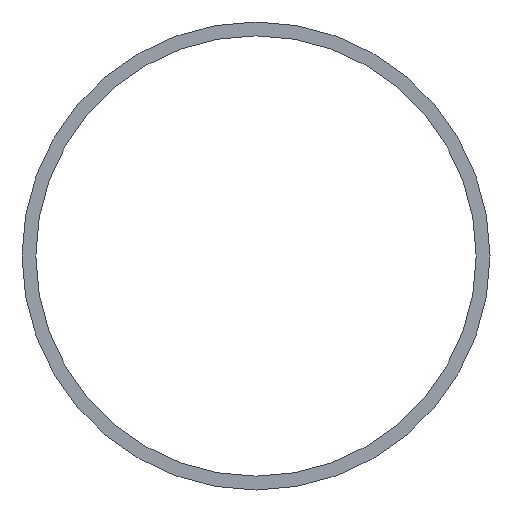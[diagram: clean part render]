
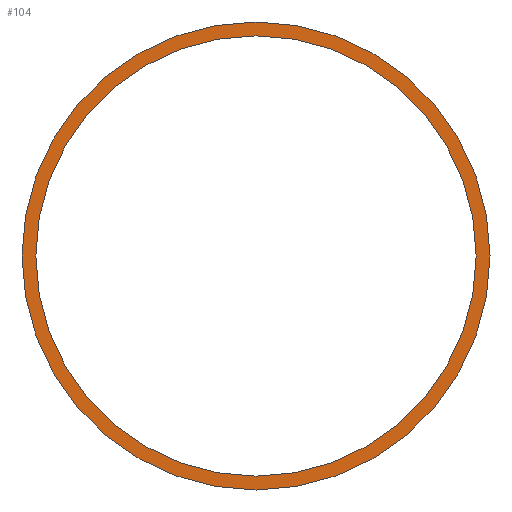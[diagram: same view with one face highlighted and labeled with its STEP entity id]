
A CAD part, front view. The second image highlights one B-rep face of the part: STEP entity #104.
In plain terms, the highlighted planar face has unit normal (0, -1, 0).
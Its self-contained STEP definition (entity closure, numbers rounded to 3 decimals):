
#96=PLANE('',#195);
#99=FACE_BOUND('',#119,.T.);
#100=FACE_BOUND('',#120,.T.);
#104=ADVANCED_FACE('',(#99,#100),#96,.F.);
#119=EDGE_LOOP('',(#143,#144));
#120=EDGE_LOOP('',(#145,#146));
#143=ORIENTED_EDGE('',*,*,#173,.F.);
#144=ORIENTED_EDGE('',*,*,#169,.F.);
#145=ORIENTED_EDGE('',*,*,#165,.T.);
#146=ORIENTED_EDGE('',*,*,#174,.T.);
#157=VERTEX_POINT('',#237);
#158=VERTEX_POINT('',#239);
#161=VERTEX_POINT('',#246);
#162=VERTEX_POINT('',#248);
#165=EDGE_CURVE('',#158,#157,#176,.T.);
#169=EDGE_CURVE('',#161,#162,#178,.T.);
#173=EDGE_CURVE('',#162,#161,#181,.T.);
#174=EDGE_CURVE('',#157,#158,#182,.T.);
#176=CIRCLE('',#185,31.8);
#178=CIRCLE('',#188,33.8);
#181=CIRCLE('',#193,33.8);
#182=CIRCLE('',#194,31.8);
#185=AXIS2_PLACEMENT_3D('',#238,#203,#204);
#188=AXIS2_PLACEMENT_3D('',#247,#211,#212);
#193=AXIS2_PLACEMENT_3D('',#254,#222,#223);
#194=AXIS2_PLACEMENT_3D('',#255,#224,#225);
#195=AXIS2_PLACEMENT_3D('',#256,#226,#227);
#203=DIRECTION('',(0.,1.,0.));
#204=DIRECTION('',(0.,0.,1.));
#211=DIRECTION('',(0.,1.,0.));
#212=DIRECTION('',(0.,0.,1.));
#222=DIRECTION('',(0.,1.,0.));
#223=DIRECTION('',(0.,0.,1.));
#224=DIRECTION('',(0.,1.,0.));
#225=DIRECTION('',(0.,0.,1.));
#226=DIRECTION('',(0.,1.,0.));
#227=DIRECTION('',(0.,0.,-1.));
#237=CARTESIAN_POINT('',(0.,0.,31.8));
#238=CARTESIAN_POINT('',(0.,0.,0.));
#239=CARTESIAN_POINT('',(0.,0.,-31.8));
#246=CARTESIAN_POINT('',(0.,0.,33.8));
#247=CARTESIAN_POINT('',(0.,0.,0.));
#248=CARTESIAN_POINT('',(0.,0.,-33.8));
#254=CARTESIAN_POINT('',(0.,0.,0.));
#255=CARTESIAN_POINT('',(0.,0.,0.));
#256=CARTESIAN_POINT('',(0.,0.,0.));
